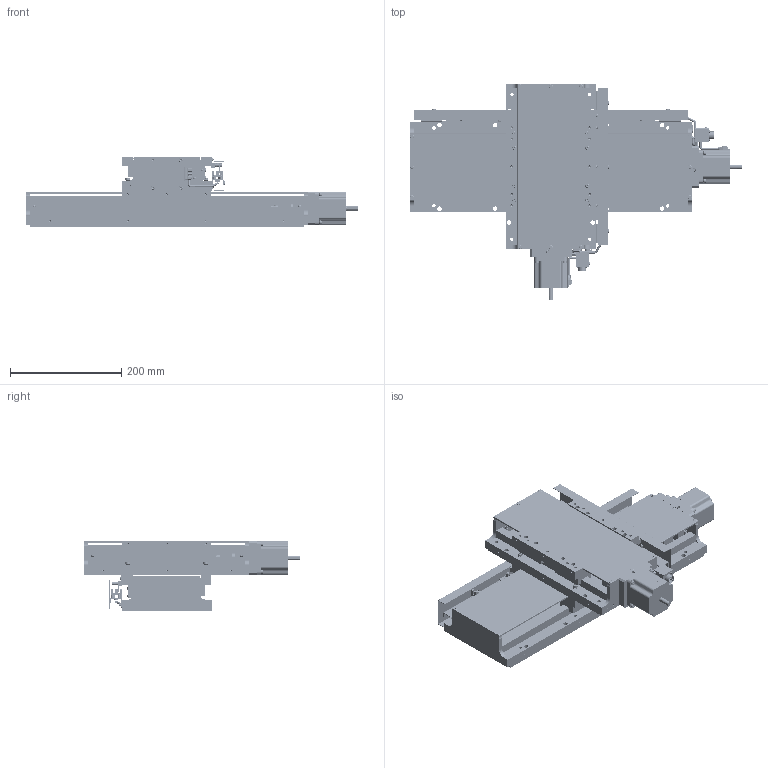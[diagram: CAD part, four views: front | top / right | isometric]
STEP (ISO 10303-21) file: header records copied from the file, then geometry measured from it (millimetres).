
FILE_DESCRIPTION( (''), '2;1');
FILE_NAME ('YA16F-L23101.stp','2021-01-05T15:26:22',(''),(''),'spGate 15.6.6','','');
FILE_SCHEMA (('AUTOMOTIVE_DESIGN'));
Length unit declared in the file: millimetre
Products named in the file (5): Assembly; YA16F-L23101-prt0; YA16F-L23101-prt1; YA16F-L23101-prt2; YA16F-L23101-prt3
Assembly tree (4 placements, depth 2):
  Assembly
    YA16F-L23101-prt0
    YA16F-L23101-prt1
    YA16F-L23101-prt2
    YA16F-L23101-prt3
Bounding box: 596.5 x 386.5 x 127 mm (x, y, z)
Volume: 4584815 mm3; surface area: 1065668.1 mm2
Topology: 4 solids, 4 shells, 5113 faces, 12750 edges, 7933 vertices
Faces by surface type: plane 3063, cylinder 1222, bspline 764, sphere 64
Entity records: 257666 total; most frequent: CARTESIAN_POINT 38166, ORIENTED_EDGE 25140, DIRECTION 23402, COLOUR_RGB 17687, PRESENTATION_STYLE_ASSIGNMENT 17687, STYLED_ITEM 17687, EDGE_CURVE 12570, DRAUGHTING_PRE_DEFINED_CURVE_FONT 12570
